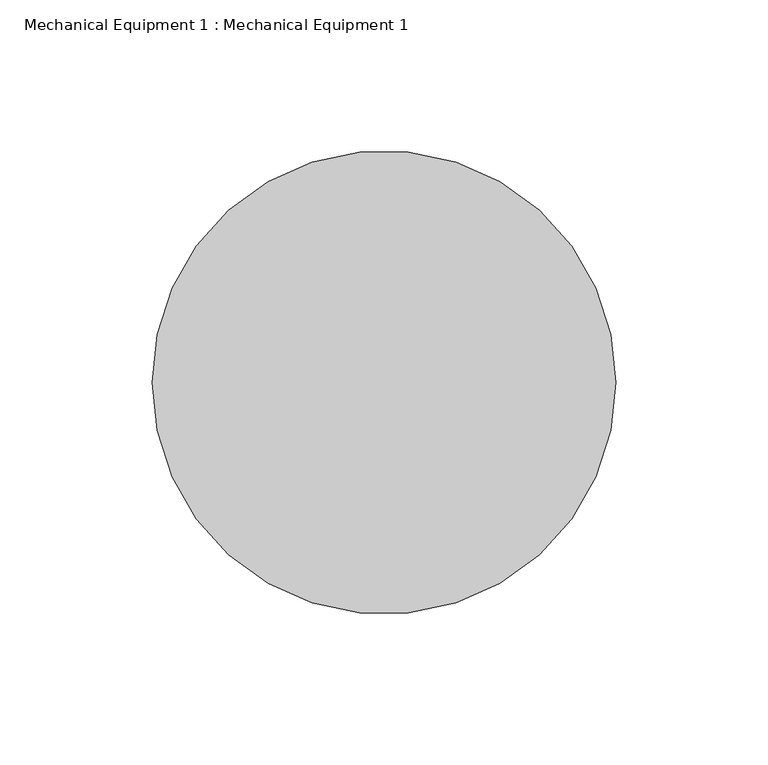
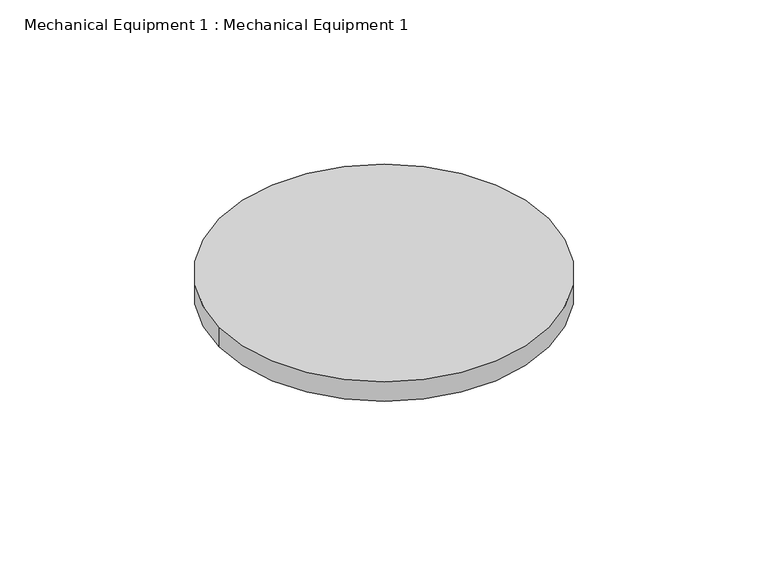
"""IFC4 building model written with IfcOpenShell, lengths in millimetres: valve geometry, Mechanical Equipment 1 : Mechanical Equipment 1."""

from ifc_helpers import new_model, si_unit, point, frame, frame_2d, origin, place, context, project, spatial, circle_curve, trimmed, segment, composite_curve, outline, extrude, source, transform, mapped, element, save


def mechanical_equipment_1_mechanical_equipment_1_24614a7e(model_context):
    return source(origin(), model_context, "Body", "SweptSolid", [
        extrude(outline(composite_curve([segment(trimmed(circle_curve(frame_2d((2369.0310586, 2040.2688308)), 76.2), [point((2292.8310586, 2040.2688308))], [point((2445.2310586, 2040.2688308))], False, "CARTESIAN"), True, "CONTINUOUS"), segment(trimmed(circle_curve(frame_2d((2369.0310586, 2040.2688308)), 76.2), [point((2445.2310586, 2040.2688308))], [point((2292.8310586, 2040.2688308))], False, "CARTESIAN"), True, "CONTINUOUS")], self_intersect=False)), frame((0.0, 0.0, 404.4517558), z_axis=(0.0, 0.0, 1.0), x_axis=(1.0, 0.0, 0.0)), (0.0, 0.0, 1.0), 9.5774743),
    ])


if __name__ == "__main__":
    model = new_model("IFC4")
    model_context = context("Model", 3, world=origin())
    ifc_project = project(units=[si_unit("LENGTHUNIT", "METRE", prefix="MILLI")], contexts=[model_context])
    site = spatial("IfcSite", under=ifc_project)
    building = spatial("IfcBuilding", under=site)
    placement = place(None, origin())
    mechanical_equipment_1_mechanical_equipment_1_shape = mechanical_equipment_1_mechanical_equipment_1_24614a7e(model_context)
    element("IfcValve", 1, ObjectType="Mechanical Equipment 1 : Mechanical Equipment 1", at=placement, inside=building, context=model_context, shape_type="MappedRepresentation", body=[
        mapped(mechanical_equipment_1_mechanical_equipment_1_shape, transform((0.0, 0.0, 0.0), x_axis=(1.0, 0.0, 0.0), y_axis=(0.0, 1.0, 0.0), z_axis=(0.0, 0.0, 1.0))),
    ])
    save(model, "model.ifc")
